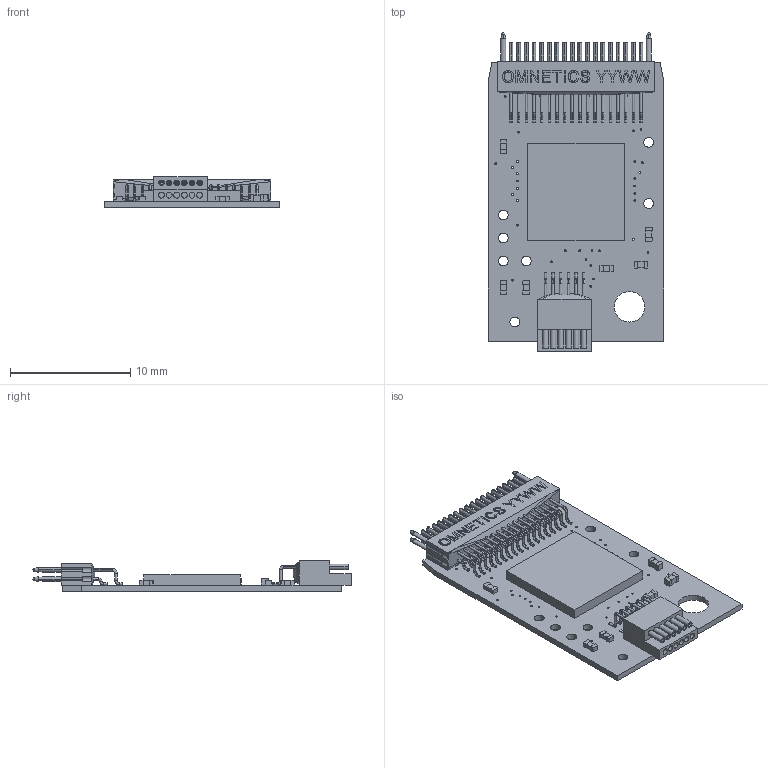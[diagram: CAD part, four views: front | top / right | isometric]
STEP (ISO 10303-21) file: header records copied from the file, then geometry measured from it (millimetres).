
FILE_DESCRIPTION (( 'STEP AP214' ), '1' );
FILE_NAME ('RHD2216_headstage.STEP', '2022-03-21T18:30:59', ( '' ), ( '' ), 'SwSTEP 2.0', 'SolidWorks 2022', '' );
FILE_SCHEMA (( 'AUTOMOTIVE_DESIGN' ));
Length unit declared in the file: inch
Products named in the file (7): A79623-001; 0402r_1430758; 0402c_2320560; A79025-001; QFN_8x8mm; RHD2216_RHD2132_headstage_PCB; RHD2216_headstage
Assembly tree (10 placements, depth 2):
  RHD2216_headstage
    RHD2216_RHD2132_headstage_PCB
    0402c_2320560  x2
    0402r_1430758  x4
    A79025-001
    A79623-001
    QFN_8x8mm
Bounding box: 14.61 x 26.43 x 2.54 mm (x, y, z)
Volume: 251 mm3; surface area: 1445.1 mm2
Topology: 9 solids, 20 shells, 1330 faces, 3365 edges, 2107 vertices
Faces by surface type: cylinder 510, plane 398, bspline 330, cone 92
Entity records: 52316 total; most frequent: CARTESIAN_POINT 17067, ORIENTED_EDGE 6122, DIRECTION 5507, EDGE_CURVE 3065, AXIS2_PLACEMENT_3D 2224, VERTEX_POINT 1979, EDGE_LOOP 1530, CIRCLE 1282
